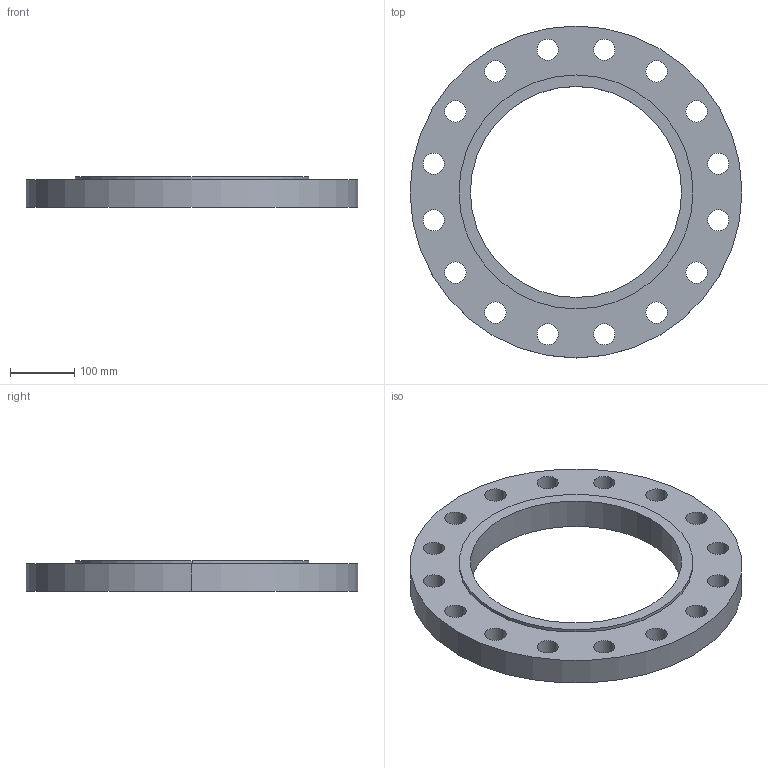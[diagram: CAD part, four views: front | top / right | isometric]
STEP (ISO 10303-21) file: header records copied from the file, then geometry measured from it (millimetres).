
FILE_DESCRIPTION (( 'STEP AP214' ), '1' );
FILE_NAME ('PN40 DN300 Type 01 - Type E Face.STEP', '2019-01-05T20:30:31', ( '' ), ( '' ), 'SwSTEP 2.0', 'SolidWorks 2019', '' );
FILE_SCHEMA (( 'AUTOMOTIVE_DESIGN' ));
Length unit declared in the file: millimetre
Products named in the file (1): PN40 DN300 Type 01 - Type E Face
Bounding box: 515 x 515 x 48 mm (x, y, z)
Volume: 4842755.7 mm3; surface area: 416752.3 mm2
Topology: 1 solids, 1 shells, 41 faces, 114 edges, 76 vertices
Faces by surface type: cylinder 38, plane 3
Entity records: 1466 total; most frequent: DIRECTION 274, CARTESIAN_POINT 232, ORIENTED_EDGE 228, AXIS2_PLACEMENT_3D 118, EDGE_CURVE 114, VERTEX_POINT 76, EDGE_LOOP 76, CIRCLE 76
